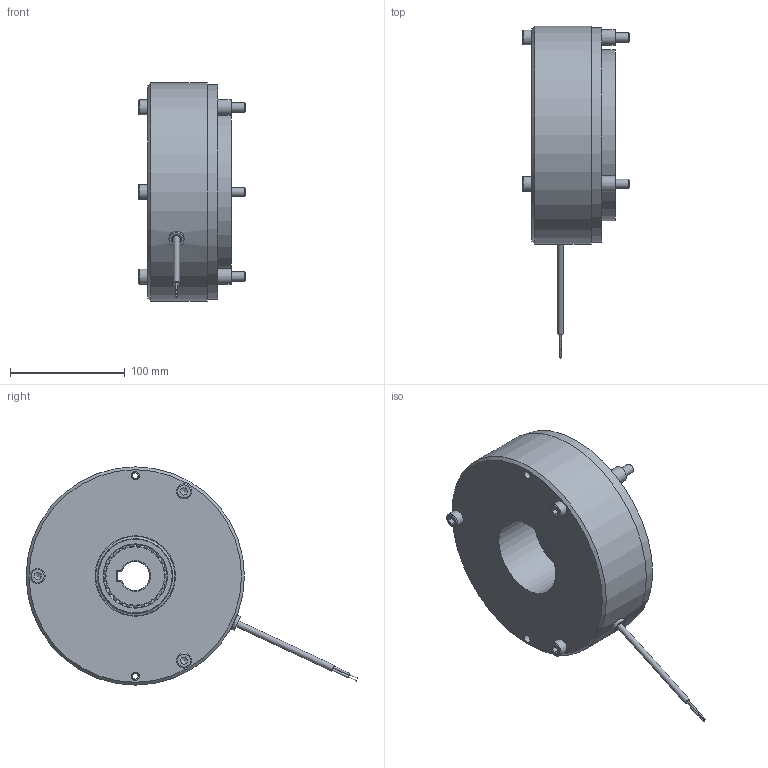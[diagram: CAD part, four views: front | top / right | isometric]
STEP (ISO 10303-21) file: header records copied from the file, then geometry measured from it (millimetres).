
FILE_DESCRIPTION(/* description */ (''),/* implementation_level */ '2;1');
FILE_NAME(/* name */ 'C:\SapWorkDir\Inventor\IP1\ConvertTempPath\5028585_IPT_000.ipt.stp',/* time_stamp */ '2020-09-03T11:51:25+02:00',/* author */ ('STRATE'),/* organization */ (''),/* preprocessor_version */ 'ST-DEVELOPER v17',/* originating_system */ 'Autodesk Inventor 2018',/* authorisation */ '');
FILE_SCHEMA (('AUTOMOTIVE_DESIGN { 1 0 10303 214 3 1 1 }'));
Length unit declared in the file: millimetre
Products named in the file (1): 5028585
Bounding box: 93 x 288.81 x 190 mm (x, y, z)
Volume: 1688724.9 mm3; surface area: 210074.9 mm2
Topology: 3 solids, 3 shells, 398 faces, 1113 edges, 752 vertices
Faces by surface type: cylinder 255, cone 66, plane 65, torus 12
Full cylindrical faces by diameter (mm): 1 x2, 1.85 x2, 4.917 x2, 5 x1, 5.3 x1, 7 x1, 7.3 x2, 8 x3, 8.4 x3, 8.5 x1, 9 x3, 10 x2, 13 x3, 13.2 x1, 13.8 x3, 14.5 x6, 70 x2, 103.8 x2, 104.1 x2, 149 x1, 187 x1, 190 x1
Entity records: 14341 total; most frequent: CARTESIAN_POINT 3404, ORIENTED_EDGE 2224, DIRECTION 2221, EDGE_CURVE 1112, AXIS2_PLACEMENT_3D 949, VERTEX_POINT 752, CIRCLE 550, EDGE_LOOP 464
